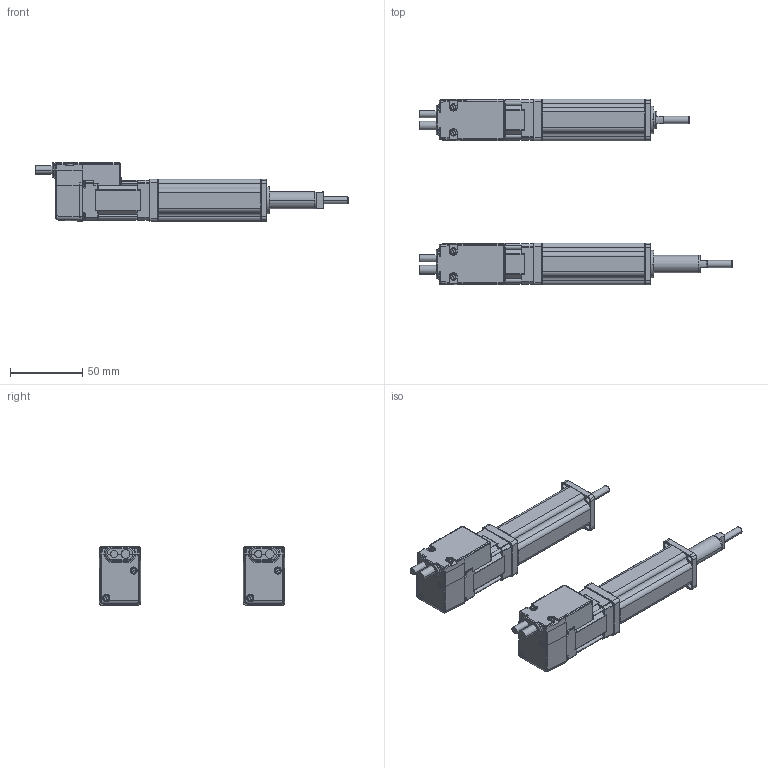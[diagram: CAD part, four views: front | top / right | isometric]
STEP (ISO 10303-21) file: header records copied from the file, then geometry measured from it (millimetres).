
FILE_DESCRIPTION(('STEP AP214'),'1');
FILE_NAME('E:/CAD/3D/SCN3/tmp0.step','2018-06-20T06:43:46',(' '),(' '),'Spatial InterOp 3D',' ',' ');
FILE_SCHEMA(('automotive_design'));
Length unit declared in the file: millimetre
Products named in the file (68): 1; 10; 14; 6; 19; 15; 3; 16; 12; 2; 5; 11; 13; 9; 20; 21; 17; 18; 4; 7; 8
Bounding box: 217.1 x 129 x 40.5 mm (x, y, z)
Volume: 170617.2 mm3; surface area: 105949.6 mm2
Topology: 68 solids, 70 shells, 3020 faces, 7598 edges, 4656 vertices
Faces by surface type: plane 1220, cylinder 1206, bspline 226, cone 128, torus 124, sphere 116
Entity records: 134441 total; most frequent: CARTESIAN_POINT 35862, DIRECTION 15880, ORIENTED_EDGE 14988, EDGE_CURVE 7494, AXIS2_PLACEMENT_3D 5974, VERTEX_POINT 4656, LINE 3932, VECTOR 3932
